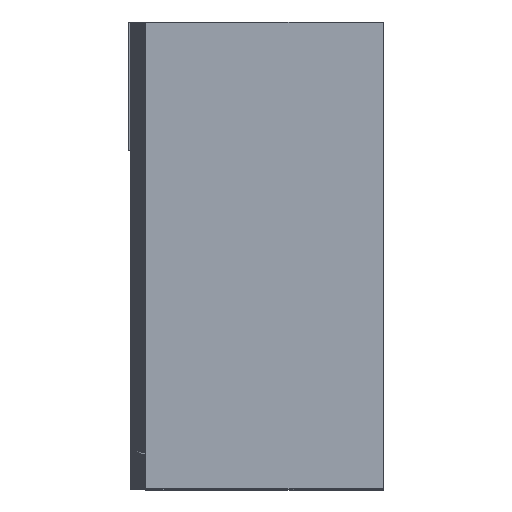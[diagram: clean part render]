
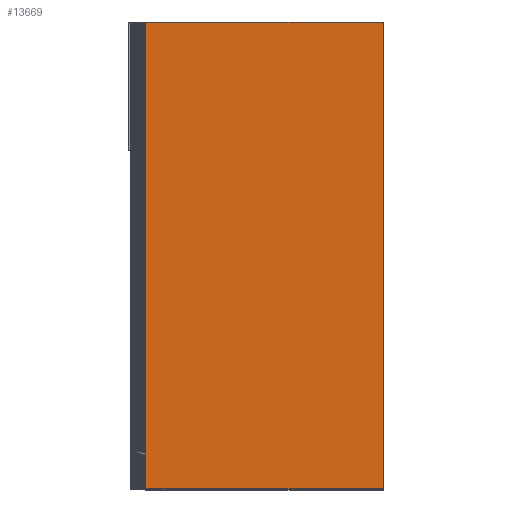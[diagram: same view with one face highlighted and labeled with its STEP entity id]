
A CAD part, top view. The second image highlights one B-rep face of the part: STEP entity #13669.
In plain terms, the highlighted planar face has unit normal (0, 0, 1).
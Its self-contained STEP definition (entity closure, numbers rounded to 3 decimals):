
#602=PLANE('',#14369);
#1303=FACE_OUTER_BOUND('',#1990,.T.);
#1990=EDGE_LOOP('',(#12721,#12722,#12723,#12724));
#2079=LINE('',#18092,#3993);
#2105=LINE('',#18151,#4019);
#2460=LINE('',#18852,#4374);
#3907=LINE('',#21747,#5821);
#3993=VECTOR('',#14551,10.);
#4019=VECTOR('',#14591,10.);
#4374=VECTOR('',#14950,1.);
#5821=VECTOR('',#17539,1.);
#5952=VERTEX_POINT('',#18089);
#5953=VERTEX_POINT('',#18091);
#5978=VERTEX_POINT('',#18149);
#5979=VERTEX_POINT('',#18150);
#7265=EDGE_CURVE('',#5952,#5953,#2079,.T.);
#7291=EDGE_CURVE('',#5978,#5979,#2105,.T.);
#7646=EDGE_CURVE('',#5953,#5978,#2460,.T.);
#9093=EDGE_CURVE('',#5952,#5979,#3907,.T.);
#12721=ORIENTED_EDGE('',*,*,#7646,.F.);
#12722=ORIENTED_EDGE('',*,*,#7265,.F.);
#12723=ORIENTED_EDGE('',*,*,#9093,.T.);
#12724=ORIENTED_EDGE('',*,*,#7291,.F.);
#13669=ADVANCED_FACE('',(#1303),#602,.T.);
#14369=AXIS2_PLACEMENT_3D('',#21746,#17537,#17538);
#14551=DIRECTION('',(0.,1.,0.));
#14591=DIRECTION('',(0.,-1.,0.));
#14950=DIRECTION('',(1.,0.,0.));
#17537=DIRECTION('center_axis',(0.,0.,
1.));
#17538=DIRECTION('ref_axis',(1.,0.,0.));
#17539=DIRECTION('',(1.,0.,0.));
#18089=CARTESIAN_POINT('',(676.027,312.7,983.693));
#18091=CARTESIAN_POINT('',(676.027,371.,983.693));
#18092=CARTESIAN_POINT('',(676.027,361.,983.693));
#18149=CARTESIAN_POINT('',(705.723,371.,983.693));
#18150=CARTESIAN_POINT('',(705.723,312.7,983.693));
#18151=CARTESIAN_POINT('',(705.723,336.85,983.693));
#18852=CARTESIAN_POINT('',(697.625,371.,983.693));
#21746=CARTESIAN_POINT('Origin',(686.826,336.85,983.693));
#21747=CARTESIAN_POINT('',(676.027,312.7,983.693));
